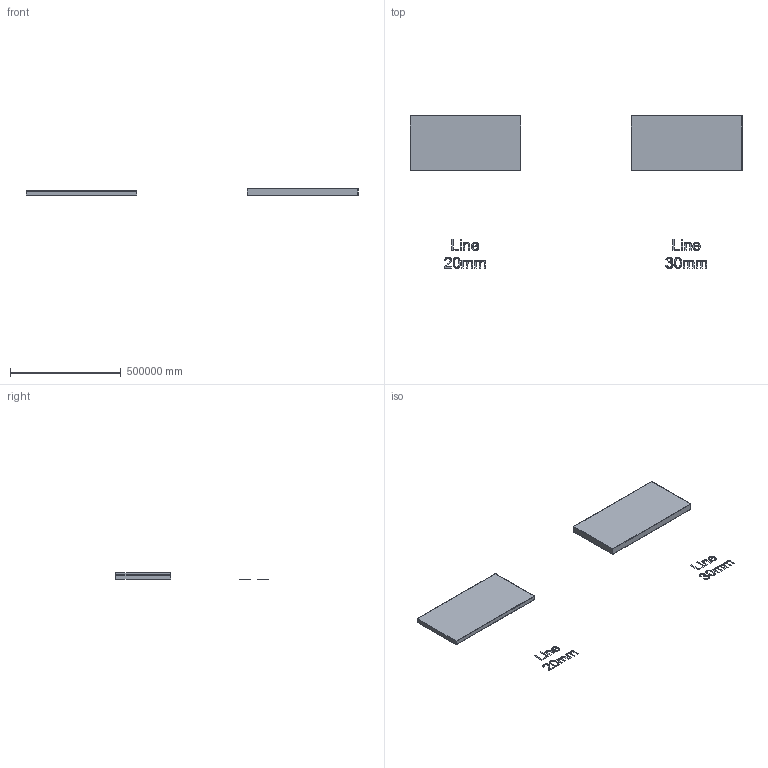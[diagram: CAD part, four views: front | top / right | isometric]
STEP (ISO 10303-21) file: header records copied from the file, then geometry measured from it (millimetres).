
FILE_DESCRIPTION(/* description */ (''),/* implementation_level */ '2;1');
FILE_NAME(/* name */ 'FLUFFO_FIRE_RESIST_LINE_20_30mm',/* time_stamp */ '2018-04-17T23:19:41+02:00',/* author */ (''),/* organization */ (''),/* preprocessor_version */ 'ST-DEVELOPER v15',/* originating_system */ '',/* authorisation */ '');
FILE_SCHEMA (('AUTOMOTIVE_DESIGN'));
Length unit declared in the file: metre
Products named in the file (3): Document; FLUFFO_FIRE_RESIST_LINE_M_30mm; FLUFFO_FIRE_RESIST_LINE_M_20mm
Assembly tree (2 placements, depth 2):
  Document
    FLUFFO_FIRE_RESIST_LINE_M_30mm
    FLUFFO_FIRE_RESIST_LINE_M_20mm
Bounding box: 1500000 x 690208.72 x 30000 mm (x, y, z)
Volume: 6248672124578885 mm3; surface area: 581816041768.8 mm2
Topology: 2 solids, 20 shells, 70 faces, 312 edges, 264 vertices
Faces by surface type: bspline 40, plane 30
Entity records: 4541 total; most frequent: CARTESIAN_POINT 2875, ORIENTED_EDGE 384, EDGE_CURVE 288, B_SPLINE_CURVE_WITH_KNOTS 264, VERTEX_POINT 240, EDGE_LOOP 74, ADVANCED_FACE 70, FACE_OUTER_BOUND 70
